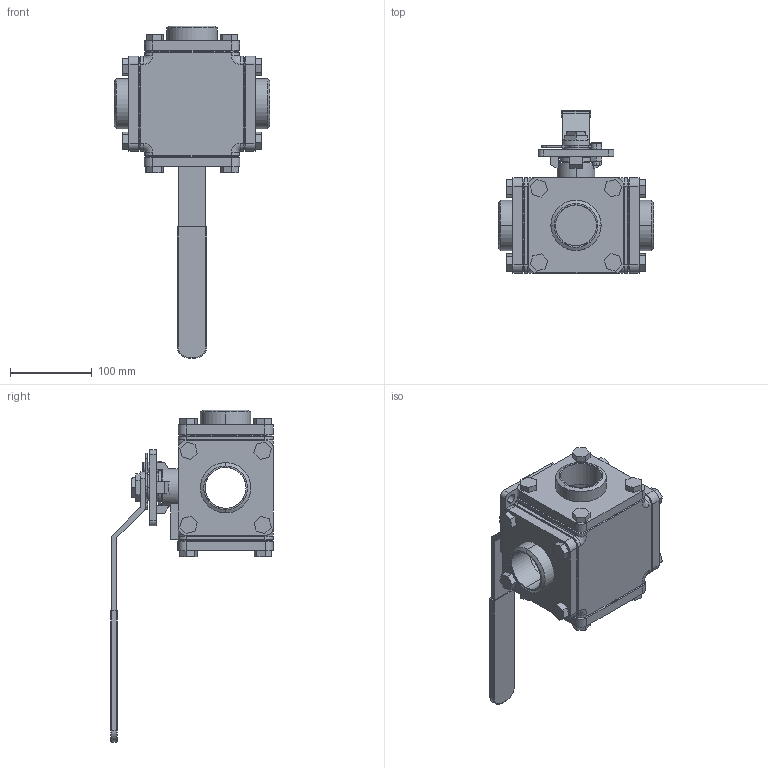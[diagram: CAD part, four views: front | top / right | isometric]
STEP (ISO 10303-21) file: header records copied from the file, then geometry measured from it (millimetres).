
FILE_DESCRIPTION (( 'STEP AP214' ), '1' );
FILE_NAME ('S350D DN50 BW HB.step', '2010-10-22T12:11:44', ( '' ), ( '' ), 'SwSTEP 2.0', 'SolidWorks 2010', '' );
FILE_SCHEMA (( 'AUTOMOTIVE_DESIGN' ));
Length unit declared in the file: millimetre
Products named in the file (7): S350D KK DN50 PN50; S350D Hendel DN50; S350D Blindflens DN50; S350D Buttweld DN50; DIN 912 M8 x 20 --- 20N_DIN 912 M8 x 20 --- 20N; Hexagon Nut ISO 4032 - M8 - D - N_Hexagon Nut ISO 4032 - M8 - D - N; S350D DN50 BW HB
Assembly tree (8 placements, depth 2):
  S350D DN50 BW HB
    S350D Hendel DN50
    S350D Buttweld DN50  x3
    S350D KK DN50 PN50
    Hexagon Nut ISO 4032 - M8 - D - N_Hexagon Nut ISO 4032 - M8 - D - N
    DIN 912 M8 x 20 --- 20N_DIN 912 M8 x 20 --- 20N
    S350D Blindflens DN50
Bounding box: 190 x 198.61 x 405.36 mm (x, y, z)
Volume: 2338724.3 mm3; surface area: 334686.1 mm2
Topology: 8 solids, 9 shells, 532 faces, 1338 edges, 855 vertices
Faces by surface type: plane 325, cylinder 149, cone 42, torus 16
Entity records: 13575 total; most frequent: CARTESIAN_POINT 2408, DIRECTION 2285, ORIENTED_EDGE 2184, EDGE_CURVE 1092, AXIS2_PLACEMENT_3D 788, LINE 709, VECTOR 709, VERTEX_POINT 695
